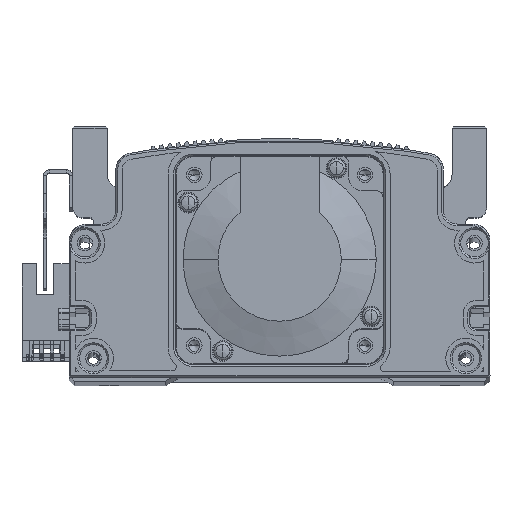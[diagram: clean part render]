
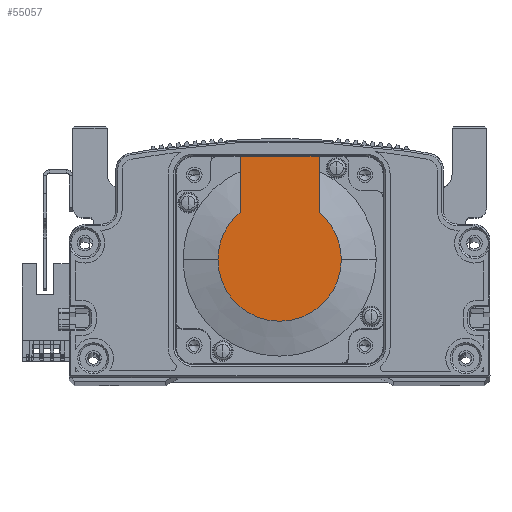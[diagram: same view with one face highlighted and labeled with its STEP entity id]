
A CAD part, top view. The second image highlights one B-rep face of the part: STEP entity #55057.
In plain terms, the highlighted planar face has unit normal (0, 0, 1) as drawn and (-1, 0, 0) by its records, which use the part's own axes.
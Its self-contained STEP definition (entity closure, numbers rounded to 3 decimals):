
#1827 = CARTESIAN_POINT ( 'NONE',  ( -118.5, -8.941, 0. ) ) ;
#3628 = ORIENTED_EDGE ( 'NONE', *, *, #62241, .F. ) ;
#8288 = DIRECTION ( 'NONE',  ( 0., 0., 1. ) ) ;
#8397 = CARTESIAN_POINT ( 'NONE',  ( -118.5, -8.941, -11.45 ) ) ;
#10934 = ORIENTED_EDGE ( 'NONE', *, *, #35913, .T. ) ;
#13073 = VERTEX_POINT ( 'NONE', #39059 ) ;
#15665 = FACE_OUTER_BOUND ( 'NONE', #17495, .T. ) ;
#16412 = AXIS2_PLACEMENT_3D ( 'NONE', #1827, #56802, #8288 ) ;
#17495 = EDGE_LOOP ( 'NONE', ( #62609, #42749, #10934, #60039, #21140, #3628 ) ) ;
#18379 = PLANE ( 'NONE',  #16412 ) ;
#18886 = VERTEX_POINT ( 'NONE', #50776 ) ;
#20633 = EDGE_CURVE ( 'NONE', #61958, #67765, #24173, .T. ) ;
#21140 = ORIENTED_EDGE ( 'NONE', *, *, #23904, .F. ) ;
#21555 = EDGE_CURVE ( 'NONE', #40527, #61958, #42111, .T. ) ;
#23904 = EDGE_CURVE ( 'NONE', #18886, #29840, #40964, .T. ) ;
#24170 = CARTESIAN_POINT ( 'NONE',  ( -118.5, 0., 11.45 ) ) ;
#24173 = CIRCLE ( 'NONE', #70653, 17.881 ) ;
#26348 = VECTOR ( 'NONE', #29738, 1000. ) ;
#28759 = AXIS2_PLACEMENT_3D ( 'NONE', #37885, #65245, #65725 ) ;
#29738 = DIRECTION ( 'NONE',  ( 0., -1., 0. ) ) ;
#29840 = VERTEX_POINT ( 'NONE', #56462 ) ;
#30942 = VECTOR ( 'NONE', #36779, 1000. ) ;
#31832 = DIRECTION ( 'NONE',  ( 0., 0., -1. ) ) ;
#35728 = CIRCLE ( 'NONE', #28759, 17.881 ) ;
#35913 = EDGE_CURVE ( 'NONE', #67765, #13073, #37128, .T. ) ;
#36779 = DIRECTION ( 'NONE',  ( 0., -1., 0. ) ) ;
#36907 = CARTESIAN_POINT ( 'NONE',  ( -118.5, 0., 0. ) ) ;
#37128 = CIRCLE ( 'NONE', #48200, 17.881 ) ;
#37885 = CARTESIAN_POINT ( 'NONE',  ( -118.5, 0., 0. ) ) ;
#39059 = CARTESIAN_POINT ( 'NONE',  ( -118.5, 0., 17.881 ) ) ;
#39594 = CARTESIAN_POINT ( 'NONE',  ( -118.5, 30., -11.45 ) ) ;
#40527 = VERTEX_POINT ( 'NONE', #39594 ) ;
#40964 = LINE ( 'NONE', #24170, #26348 ) ;
#42111 = LINE ( 'NONE', #8397, #30942 ) ;
#42749 = ORIENTED_EDGE ( 'NONE', *, *, #20633, .T. ) ;
#42798 = CARTESIAN_POINT ( 'NONE',  ( -118.5, 0., -17.881 ) ) ;
#47117 = CARTESIAN_POINT ( 'NONE',  ( -118.5, 30., 25. ) ) ;
#48200 = AXIS2_PLACEMENT_3D ( 'NONE', #61202, #50167, #55924 ) ;
#50167 = DIRECTION ( 'NONE',  ( -1., 0., 0. ) ) ;
#50776 = CARTESIAN_POINT ( 'NONE',  ( -118.5, 30., 11.45 ) ) ;
#53711 = DIRECTION ( 'NONE',  ( -1., 0., 0. ) ) ;
#55057 = ADVANCED_FACE ( 'NONE', ( #15665 ), #18379, .T. ) ;
#55924 = DIRECTION ( 'NONE',  ( 0., 0., -1. ) ) ;
#56462 = CARTESIAN_POINT ( 'NONE',  ( -118.5, 13.735, 11.45 ) ) ;
#56802 = DIRECTION ( 'NONE',  ( -1., 0., 0. ) ) ;
#60039 = ORIENTED_EDGE ( 'NONE', *, *, #63001, .T. ) ;
#61202 = CARTESIAN_POINT ( 'NONE',  ( -118.5, 0., 0. ) ) ;
#61958 = VERTEX_POINT ( 'NONE', #64050 ) ;
#62241 = EDGE_CURVE ( 'NONE', #40527, #18886, #64899, .T. ) ;
#62609 = ORIENTED_EDGE ( 'NONE', *, *, #21555, .T. ) ;
#63001 = EDGE_CURVE ( 'NONE', #13073, #29840, #35728, .T. ) ;
#64050 = CARTESIAN_POINT ( 'NONE',  ( -118.5, 13.735, -11.45 ) ) ;
#64899 = LINE ( 'NONE', #47117, #66636 ) ;
#65245 = DIRECTION ( 'NONE',  ( -1., 0., 0. ) ) ;
#65725 = DIRECTION ( 'NONE',  ( 0., 0., -1. ) ) ;
#66636 = VECTOR ( 'NONE', #69647, 1000. ) ;
#67765 = VERTEX_POINT ( 'NONE', #42798 ) ;
#69647 = DIRECTION ( 'NONE',  ( 0., 0., 1. ) ) ;
#70653 = AXIS2_PLACEMENT_3D ( 'NONE', #36907, #53711, #31832 ) ;
